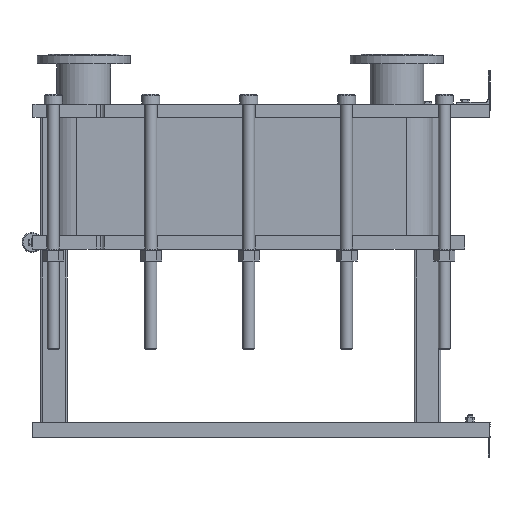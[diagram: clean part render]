
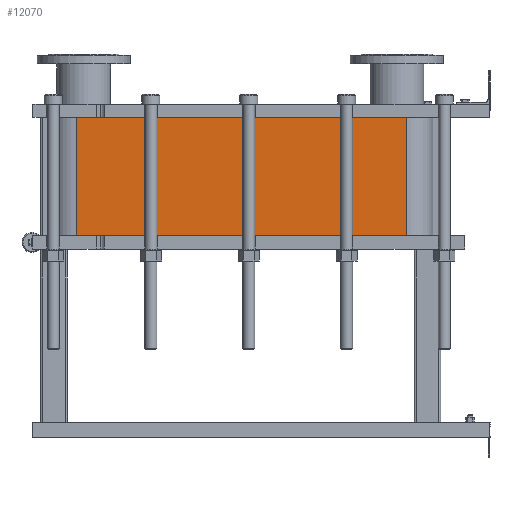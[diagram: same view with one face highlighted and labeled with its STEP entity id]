
A CAD part, left-side view. The second image highlights one B-rep face of the part: STEP entity #12070.
In plain terms, the highlighted planar face has unit normal (-1, 0, 0).
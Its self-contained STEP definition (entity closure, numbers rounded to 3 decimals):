
#1064=LINE('',#21140,#2164);
#1065=LINE('',#21144,#2165);
#1066=LINE('',#21146,#2166);
#1067=LINE('',#21147,#2167);
#2164=VECTOR('',#15790,10.);
#2165=VECTOR('',#15795,10.);
#2166=VECTOR('',#15796,10.);
#2167=VECTOR('',#15797,10.);
#3304=FACE_OUTER_BOUND('',#4091,.T.);
#4091=EDGE_LOOP('',(#9793,#9794,#9795,#9796));
#5677=VERTEX_POINT('',#21137);
#5678=VERTEX_POINT('',#21139);
#5679=VERTEX_POINT('',#21143);
#5680=VERTEX_POINT('',#21145);
#7118=EDGE_CURVE('',#5678,#5677,#1064,.T.);
#7120=EDGE_CURVE('',#5677,#5679,#1065,.T.);
#7121=EDGE_CURVE('',#5680,#5679,#1066,.T.);
#7122=EDGE_CURVE('',#5680,#5678,#1067,.T.);
#9793=ORIENTED_EDGE('',*,*,#7120,.T.);
#9794=ORIENTED_EDGE('',*,*,#7121,.F.);
#9795=ORIENTED_EDGE('',*,*,#7122,.T.);
#9796=ORIENTED_EDGE('',*,*,#7118,.T.);
#11441=PLANE('',#13191);
#12070=ADVANCED_FACE('',(#3304),#11441,.T.);
#13191=AXIS2_PLACEMENT_3D('',#21142,#15793,#15794);
#15790=DIRECTION('',(0.,0.,-1.));
#15793=DIRECTION('center_axis',(-1.,0.,0.));
#15794=DIRECTION('ref_axis',(0.,1.,0.));
#15795=DIRECTION('',(0.,-1.,0.));
#15796=DIRECTION('',(0.,0.,-1.));
#15797=DIRECTION('',(0.,1.,0.));
#21137=CARTESIAN_POINT('',(-248.152,1243.818,-355.35));
#21139=CARTESIAN_POINT('',(-248.152,1243.818,0.));
#21140=CARTESIAN_POINT('',(-248.152,1243.818,0.));
#21142=CARTESIAN_POINT('Origin',(-248.152,251.818,0.));
#21143=CARTESIAN_POINT('',(-248.152,251.818,-355.35));
#21144=CARTESIAN_POINT('',(-248.152,499.818,-355.35));
#21145=CARTESIAN_POINT('',(-248.152,251.818,0.));
#21146=CARTESIAN_POINT('',(-248.152,251.818,0.));
#21147=CARTESIAN_POINT('',(-248.152,251.818,0.));
